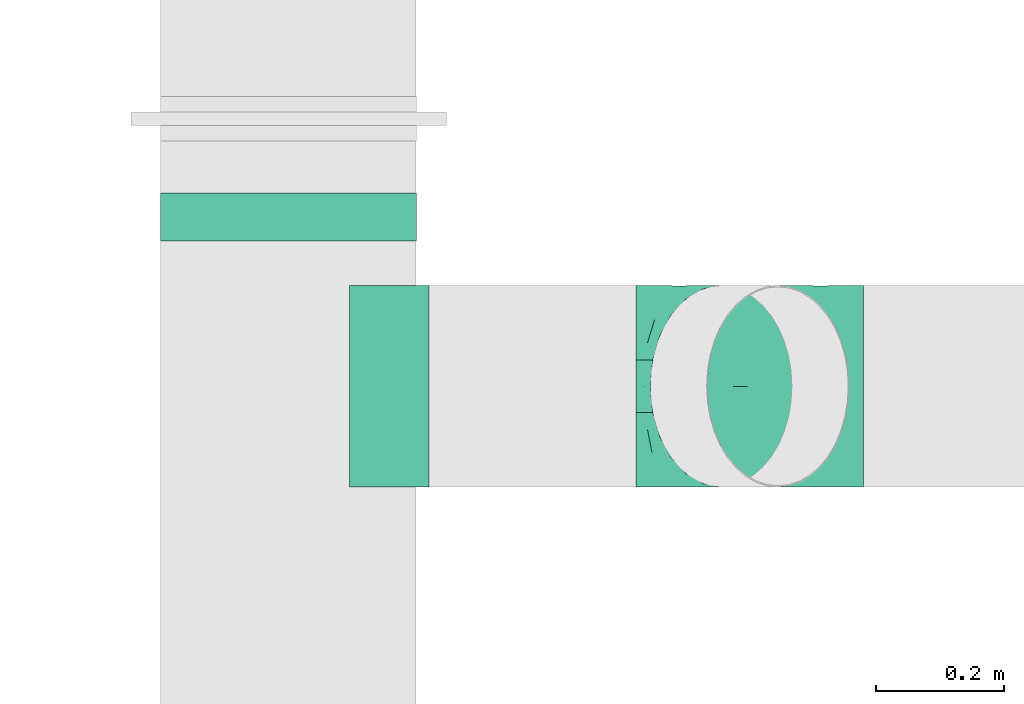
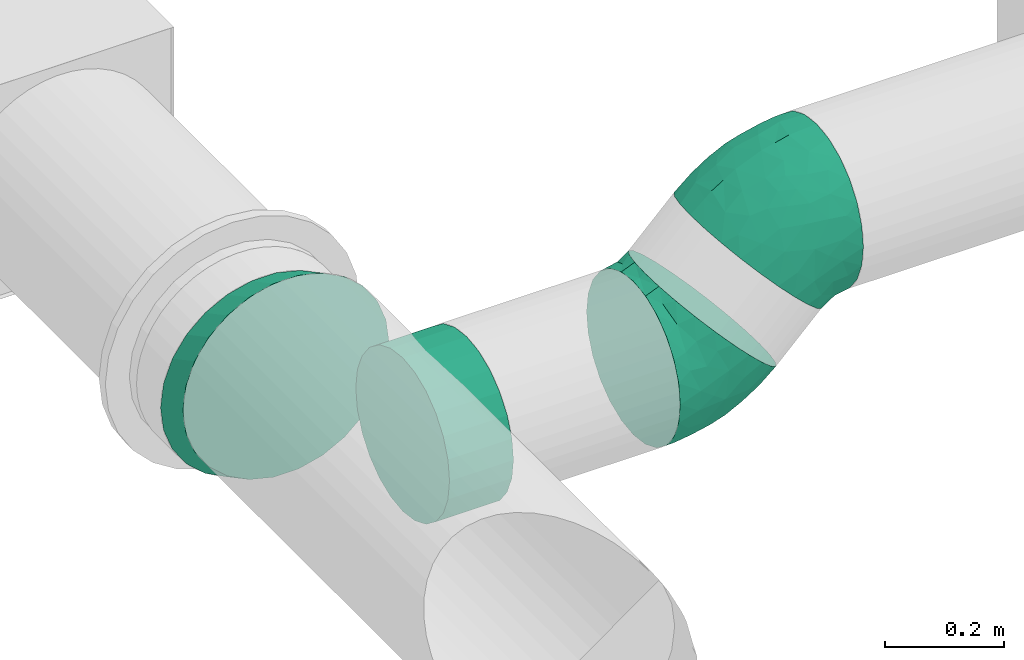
# One storey, part 9 of 16: 4 flow fittings.
"""IFC2X3 building model written with IfcOpenShell, lengths in millimetres."""

from ifc_helpers import new_model, entity, si_unit, converted_unit, derived_unit, direction, frame, origin_with_axes, place, context, subcontext, project, spatial, open_shell, surface_model, source, transform, mapped, type_object, element, save


model = new_model("IFC2X3")

# Units and contexts
model_context = context("Model", 3, precision=0.01, world=frame((0.0, 4.29681676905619e-09, 0.0)), true_north=direction((4.01073788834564e-13, 1.0)))
plan_context = context("Plan", 3, precision=0.01, world=frame((0.0, 4.29681676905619e-09, 0.0)), true_north=direction((4.01073788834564e-13, 1.0)))
body_context = subcontext(model_context, "Body", "Model", "MODEL_VIEW")
ifc_project = project(units=[converted_unit("PLANEANGLEUNIT", "DEGREE", entity("IfcPositiveLengthMeasure", 0.0174532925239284), si_unit("PLANEANGLEUNIT", "RADIAN"), dimensions=[0, 0, 0, 0, 0, 0, 0]), si_unit("AREAUNIT", "SQUARE_METRE"), si_unit("LENGTHUNIT", "METRE", prefix="MILLI"), si_unit("MASSUNIT", "GRAM", prefix="KILO"), si_unit("POWERUNIT", "WATT"), si_unit("PRESSUREUNIT", "PASCAL"), si_unit("FORCEUNIT", "NEWTON", prefix="KILO"), si_unit("ELECTRICVOLTAGEUNIT", "VOLT"), si_unit("ELECTRICCURRENTUNIT", "AMPERE"), si_unit("THERMODYNAMICTEMPERATUREUNIT", "DEGREE_CELSIUS"), si_unit("TIMEUNIT", "SECOND"), si_unit("VOLUMEUNIT", "CUBIC_METRE"), derived_unit("LINEARVELOCITYUNIT", [(si_unit("LENGTHUNIT", "METRE"), 1), (si_unit("TIMEUNIT", "SECOND"), -1)]), derived_unit("VOLUMETRICFLOWRATEUNIT", [(si_unit("VOLUMEUNIT", "CUBIC_METRE"), 1), (si_unit("TIMEUNIT", "SECOND"), -1)]), derived_unit("THERMALTRANSMITTANCEUNIT", [(si_unit("POWERUNIT", "WATT"), 1), (si_unit("THERMODYNAMICTEMPERATUREUNIT", "KELVIN"), -1), (si_unit("AREAUNIT", "SQUARE_METRE"), -1)]), derived_unit("SOUNDPRESSUREUNIT", [(si_unit("PRESSUREUNIT", "PASCAL"), 1)])], contexts=[model_context, plan_context])

# Site, building, storey
site_placement = place(None, frame((0.0, -4.29681676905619e-09, 0.0), z_axis=(0.0, 0.0, 1.0), x_axis=(1.0, 0.0, 0.0)))
site = spatial("IfcSite", under=ifc_project, at=site_placement, Name="ENGM", CompositionType="ELEMENT")
building_placement = place(site_placement, frame((0.0, 4.29681676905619e-09, 0.0), z_axis=(0.0, 0.0, 1.0), x_axis=(1.0, 0.0, 0.0)))
building = spatial("IfcBuilding", under=site, at=building_placement, Name="TH", CompositionType="ELEMENT")
storey_placement = place(building_placement, frame((0.0, 0.0, 210200.0), z_axis=(0.0, 0.0, 1.0), x_axis=(1.0, 0.0, 0.0)))
storey = spatial("IfcBuildingStorey", under=building, at=storey_placement, Name="Nivå F - 0,7 m", CompositionType="ELEMENT", Elevation=210200.0)

# Flow fittings
duct_fitting_type_1 = type_object("IfcDuctFittingType", Name="magicirc_elbow_short_001", PredefinedType="BEND")
shared_shape_1 = source(origin_with_axes(), body_context, "Body", "SurfaceModel", [
    surface_model("IfcShellBasedSurfaceModel", [(-78.28636, 78.75, -136.39901), (-78.28636, 40.764, -152.13332), (-78.28636, 0.0, -157.5), (-78.28636, 111.36932, -111.36932), (-78.28636, 152.13332, -40.764), (-78.28636, 136.39901, -78.75), (-78.28636, -152.13332, 40.764), (-78.28636, -152.13332, -40.764), (-78.28636, -78.75, -136.39901), (-78.28636, -111.36932, -111.36932), (-78.28636, -40.764, -152.13332), (-78.28636, -136.39901, -78.75), (-78.28636, -157.5, 0.0), (-78.28636, 111.36932, 111.36932), (-78.28636, 152.13332, 40.764), (-78.28636, 136.39901, 78.75), (-78.28636, 78.75, 136.39901), (-78.28636, -111.36932, 111.36932), (-78.28636, 40.764, 152.13332), (-78.28636, -136.39901, 78.75), (-78.28636, -78.75, 136.39901), (-78.28636, -40.764, 152.13332), (-78.28636, 0.0, 157.5), (-78.28636, 157.5, 0.0), (55.35682, 55.35682, -157.5), (26.53232, 84.18132, -152.13332), (-0.32784, 111.04148, -136.39901), (-23.39318, 134.10682, -111.36932), (-41.09184, 151.80548, -78.75), (-52.21768, 162.93132, -40.764), (162.93132, -52.21768, -40.764), (162.93132, -52.21768, 40.764), (84.18132, 26.53232, -152.13332), (134.10682, -23.39318, -111.36932), (111.04148, -0.32784, -136.39901), (151.80548, -41.09184, -78.75), (166.72614, -56.0125, 0.0), (-52.21768, 162.93132, 40.764), (-56.0125, 166.72614, 0.0), (-23.39318, 134.10682, 111.36932), (-41.09184, 151.80548, 78.75), (-0.32784, 111.04148, 136.39901), (26.53232, 84.18132, 152.13332), (134.10682, -23.39318, 111.36932), (151.80548, -41.09184, 78.75), (84.18132, 26.53232, 152.13332), (111.04148, -0.32784, 136.39901), (55.35682, 55.35682, 157.5), (-49.11236, -127.77996, 90.18947), (-34.85316, -146.52532, 50.0834), (-12.68336, -127.31236, 82.69537), (-41.78809, -154.62752, 0.0), (-24.08182, -153.23402, 0.0), (-35.84726, -100.69147, 118.47032), (-54.8087, -64.47551, 143.2064), (2.08675, -93.80638, 117.38857), (38.82999, -93.74389, 105.39421), (21.40052, -66.51383, 132.41994), (91.43168, -106.02, 43.56765), (98.99192, -81.05494, 82.69537), (69.23638, -91.45247, 91.93202), (-22.27624, -66.68051, 139.69479), (-40.54124, -26.86021, 154.59013), (12.03369, -24.13414, 151.66258), (-12.39711, -4.98926, 156.69805), (50.80174, -122.64626, 52.97543), (43.8352, -111.36889, 80.71495), (21.36787, -126.94854, 67.52195), (-53.26793, 123.13099, 103.70429), (-1.25362, 77.17281, 148.24007), (16.83006, 36.67886, 157.21802), (-53.68298, 55.45586, 148.24007), (-37.83654, 14.03521, 157.21802), (-22.9077, 55.30406, 151.14488), (-54.06528, 85.12747, 134.26178), (-10.63601, 25.67757, 157.02514), (-60.39574, 145.80821, 67.61152), (-66.23184, 159.8978, 0.0), (53.90469, -130.13742, 0.0), (79.02135, -119.73376, 0.0), (14.41152, -112.90869, 93.39778), (47.66001, 9.67393, 154.59013), (128.25395, -78.96415, 50.0834), (64.35527, -29.91821, 139.93064), (125.08176, -55.62639, 90.18947), (96.9038, -45.46685, 118.55395), (62.53535, -65.01693, 120.48315), (138.88682, -79.78952, 0.0), (102.20128, -105.52908, 0.0), (2.3531, -146.88755, 0.0), (10.3155, -139.61943, 43.56764), (-32.27846, 97.70482, 131.44465), (28.78803, -140.54109, 0.0), (125.38123, -91.32439, 0.0), (50.80174, -122.64626, -52.97543), (16.83006, 36.67886, -157.21802), (-37.83654, 14.03521, -157.21802), (-24.35067, -66.66142, -139.93064), (-49.40064, 124.73288, -103.70429), (-40.54124, -26.86021, -154.59013), (8.55629, -25.57451, -151.66258), (-53.68298, 55.45586, -148.24007), (-46.26342, 91.91206, -131.44465), (-22.9077, 55.30406, -151.14488), (-34.85316, -146.52532, -50.0834), (10.3155, -139.61943, -43.56764), (15.70915, -113.62418, -91.93202), (-36.37142, -100.67125, -118.55395), (1.75473, -90.19309, -120.48315), (47.66001, 9.67393, -154.59013), (-60.39574, 145.80821, -67.61152), (-49.11236, -127.77996, -90.18947), (125.08176, -55.62639, -90.18947), (96.54747, -45.85178, -118.47032), (-12.68336, -127.31236, -82.69537), (128.25395, -78.96415, -50.0834), (91.43168, -106.02, -43.56765), (98.99192, -81.05494, -82.69537), (31.89991, -62.16483, -132.41995), (38.82999, -93.74389, -105.39421), (69.64802, -90.02898, -93.39779), (64.85556, -67.80669, -117.38857), (-21.96428, 98.42412, -134.26178), (-1.25362, 77.17281, -148.24007), (84.34667, -6.83547, -143.2064), (62.90192, -31.39857, -139.69479), (47.75354, -109.74586, -80.71495), (74.65681, -104.87553, -67.52196), (12.294, 5.23814, -156.69805), (-10.63601, 25.67757, -157.02514)], [open_shell([[[0, 1, 2]], [[3, 0, 2]], [[4, 5, 3]], [[6, 3, 2]], [[6, 2, 7]], [[8, 9, 10]], [[7, 10, 9]], [[11, 7, 9]], [[7, 2, 10]], [[12, 6, 7]], [[3, 6, 4]], [[13, 14, 4]], [[15, 14, 13]], [[16, 13, 6]], [[4, 6, 13]], [[17, 18, 16]], [[19, 17, 6]], [[17, 16, 6]], [[20, 21, 17]], [[22, 17, 21]], [[17, 22, 18]], [[23, 4, 14]], [[24, 25, 26]], [[24, 26, 27]], [[27, 28, 29]], [[24, 27, 30]], [[31, 30, 27]], [[32, 33, 34]], [[33, 32, 30]], [[33, 30, 35]], [[32, 24, 30]], [[30, 31, 36]], [[31, 27, 29]], [[37, 31, 38]], [[39, 37, 40]], [[31, 39, 41]], [[37, 39, 31]], [[41, 42, 43]], [[31, 43, 44]], [[31, 41, 43]], [[43, 45, 46]], [[45, 43, 47]], [[42, 47, 43]], [[38, 31, 29]], [[48, 49, 50]], [[51, 52, 49]], [[49, 6, 51]], [[53, 54, 20]], [[55, 56, 57]], [[58, 59, 60]], [[20, 17, 53]], [[54, 53, 61]], [[62, 63, 64]], [[65, 66, 67]], [[48, 53, 17]], [[68, 39, 40]], [[69, 70, 42]], [[54, 21, 20]], [[17, 19, 48]], [[16, 18, 71]], [[71, 72, 73]], [[18, 22, 72]], [[60, 56, 66]], [[68, 13, 74]], [[64, 70, 75]], [[14, 15, 76]], [[74, 16, 71]], [[53, 55, 61]], [[23, 14, 77]], [[19, 6, 49]], [[65, 78, 79]], [[80, 55, 53]], [[70, 81, 47]], [[22, 21, 62]], [[42, 41, 69]], [[45, 47, 81]], [[44, 82, 31]], [[45, 83, 46]], [[80, 56, 55]], [[44, 84, 82]], [[60, 85, 86]], [[83, 85, 46]], [[75, 70, 73]], [[82, 87, 31]], [[81, 63, 83]], [[82, 58, 88]], [[74, 13, 16]], [[37, 77, 14]], [[58, 82, 59]], [[38, 77, 37]], [[49, 89, 90]], [[76, 37, 14]], [[43, 84, 44]], [[73, 69, 91]], [[49, 90, 50]], [[13, 68, 15]], [[22, 62, 72]], [[41, 39, 91]], [[47, 42, 70]], [[57, 56, 86]], [[84, 85, 59]], [[85, 43, 46]], [[39, 68, 91]], [[86, 85, 83]], [[76, 68, 40]], [[54, 62, 21]], [[63, 62, 61]], [[63, 81, 70]], [[83, 45, 81]], [[65, 92, 78]], [[88, 93, 82]], [[65, 90, 92]], [[68, 76, 15]], [[40, 37, 76]], [[57, 83, 63]], [[86, 56, 60]], [[83, 57, 86]], [[63, 61, 57]], [[61, 55, 57]], [[80, 53, 50]], [[67, 50, 90]], [[66, 56, 80]], [[67, 66, 80]], [[65, 58, 60]], [[60, 66, 65]], [[60, 59, 85]], [[50, 67, 80]], [[65, 67, 90]], [[72, 71, 18]], [[74, 73, 91]], [[73, 74, 71]], [[74, 91, 68]], [[91, 69, 41]], [[70, 69, 73]], [[49, 48, 19]], [[53, 48, 50]], [[85, 84, 43]], [[82, 84, 59]], [[6, 12, 51]], [[87, 82, 93]], [[87, 36, 31]], [[62, 54, 61]], [[73, 72, 75]], [[64, 75, 72]], [[62, 64, 72]], [[70, 64, 63]], [[65, 79, 58]], [[58, 79, 88]], [[89, 49, 52]], [[89, 92, 90]], [[94, 78, 92]], [[25, 24, 95]], [[2, 1, 96]], [[97, 8, 10]], [[98, 28, 27]], [[99, 100, 97]], [[101, 102, 103]], [[104, 105, 89]], [[0, 3, 102]], [[106, 107, 108]], [[24, 109, 95]], [[110, 4, 29]], [[104, 11, 111]], [[24, 32, 109]], [[104, 51, 7]], [[112, 113, 33]], [[107, 8, 97]], [[105, 114, 106]], [[96, 99, 2]], [[115, 116, 117]], [[30, 36, 87]], [[104, 7, 11]], [[10, 2, 99]], [[9, 111, 11]], [[118, 119, 108]], [[115, 30, 87]], [[4, 23, 77]], [[3, 98, 102]], [[77, 38, 29]], [[120, 119, 121]], [[5, 4, 110]], [[122, 27, 26]], [[115, 88, 116]], [[98, 27, 122]], [[1, 0, 101]], [[35, 30, 115]], [[95, 103, 123]], [[112, 33, 35]], [[1, 101, 96]], [[123, 122, 26]], [[34, 33, 113]], [[32, 34, 124]], [[125, 124, 113]], [[26, 25, 123]], [[3, 5, 98]], [[126, 127, 94]], [[8, 107, 9]], [[100, 128, 109]], [[117, 112, 115]], [[113, 121, 125]], [[115, 87, 93]], [[105, 104, 114]], [[95, 129, 103]], [[121, 119, 118]], [[106, 119, 126]], [[128, 96, 129]], [[108, 107, 97]], [[77, 29, 4]], [[111, 107, 114]], [[120, 121, 113]], [[110, 98, 5]], [[124, 109, 32]], [[100, 109, 125]], [[100, 99, 96]], [[97, 10, 99]], [[94, 79, 78]], [[89, 52, 104]], [[94, 116, 79]], [[29, 28, 110]], [[98, 110, 28]], [[118, 97, 100]], [[108, 119, 106]], [[97, 118, 108]], [[100, 125, 118]], [[125, 121, 118]], [[120, 113, 117]], [[127, 117, 116]], [[126, 119, 120]], [[127, 126, 120]], [[94, 105, 106]], [[106, 126, 94]], [[106, 114, 107]], [[117, 127, 120]], [[94, 127, 116]], [[102, 101, 0]], [[96, 101, 103]], [[95, 123, 25]], [[122, 103, 102]], [[103, 122, 123]], [[122, 102, 98]], [[115, 112, 35]], [[113, 112, 117]], [[107, 111, 9]], [[104, 111, 114]], [[51, 104, 52]], [[51, 12, 7]], [[113, 124, 34]], [[109, 124, 125]], [[128, 129, 95]], [[96, 103, 129]], [[109, 128, 95]], [[96, 128, 100]], [[94, 92, 105]], [[105, 92, 89]], [[88, 115, 93]], [[88, 79, 116]]])]),
])
flow_fitting_1_placement = place(storey_placement, frame((897376.49216, 482676.69257, 2861.60000000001), z_axis=(0.0, -1.0, 0.0), x_axis=(-1.0, 0.0, 0.0)))
element("IfcFlowFitting", 1, at=flow_fitting_1_placement, inside=storey, type_object=duct_fitting_type_1, Name="magicirc_elbow_short_001", context=body_context, shape_type="MappedRepresentation", body=[
    mapped(shared_shape_1, transform((0.0, 0.0, 0.0), scale=1.0)),
])
shared_shape_2 = source(origin_with_axes(), body_context, "Body", "SurfaceModel", [
    surface_model("IfcShellBasedSurfaceModel", [(-78.2963, 78.75, -136.39901), (-78.2963, 40.764, -152.13332), (-78.2963, 0.0, -157.5), (-78.2963, 111.36932, -111.36932), (-78.2963, 152.13332, -40.764), (-78.2963, 136.39901, -78.75), (-78.2963, -152.13332, 40.764), (-78.2963, -152.13332, -40.764), (-78.2963, -78.75, -136.39901), (-78.2963, -111.36932, -111.36932), (-78.2963, -40.764, -152.13332), (-78.2963, -136.39901, -78.75), (-78.2963, -157.5, 0.0), (-78.2963, 111.36932, 111.36932), (-78.2963, 152.13332, 40.764), (-78.2963, 136.39901, 78.75), (-78.2963, 78.75, 136.39901), (-78.2963, -111.36932, 111.36932), (-78.2963, 40.764, 152.13332), (-78.2963, -136.39901, 78.75), (-78.2963, -78.75, 136.39901), (-78.2963, -40.764, 152.13332), (-78.2963, 0.0, 157.5), (-78.2963, 157.5, 0.0), (55.35888, 55.36882, -157.5), (26.53179, 84.19073, -152.13332), (-0.33078, 111.04847, -136.39901), (162.94303, -52.19603, -40.764), (-23.39819, 134.11174, -111.36932), (-41.09844, 151.80882, -78.75), (-52.22528, 162.93366, -40.764), (-56.02044, 166.72814, 0.0), (84.18597, 26.5469, -152.13332), (134.11594, -23.37411, -111.36932), (111.04854, -0.31084, -136.39901), (151.8162, -41.07118, -78.75), (-23.39819, 134.11174, 111.36932), (166.73819, -55.99051, 0.0), (-52.22528, 162.93366, 40.764), (-41.09844, 151.80882, 78.75), (-0.33078, 111.04847, 136.39901), (162.94303, -52.19603, 40.764), (26.53179, 84.19073, 152.13332), (134.11594, -23.37411, 111.36932), (151.8162, -41.07118, 78.75), (84.18597, 26.5469, 152.13332), (111.04854, -0.31084, 136.39901), (55.35888, 55.36882, 157.5), (-49.11849, -127.78055, 90.18814), (-34.86064, -146.52556, 50.08178), (-12.6865, -127.31271, 82.69256), (-41.79807, -154.62719, 0.0), (-24.08562, -153.23303, 0.0), (-35.8542, -100.69235, 118.46918), (-54.81304, -64.47676, 143.20559), (2.08579, -93.80525, 117.38735), (38.83443, -93.74271, 105.38932), (21.40564, -66.50908, 132.41927), (91.44131, -106.01228, 43.55701), (99.00167, -81.04409, 82.69256), (69.24263, -91.4516, 91.9226), (-22.27634, -66.68179, 139.69304), (-40.5502, -26.86123, 154.58989), (12.04096, -24.13029, 151.66169), (-12.40355, -4.99717, 156.69718), (50.80635, -122.64181, 52.97133), (43.83452, -111.36816, 80.71025), (21.36626, -126.94925, 67.51523), (-53.2761, 123.13047, 103.70556), (-1.25552, 77.17613, 148.24072), (16.83249, 36.6843, 157.21815), (-53.68897, 55.45473, 148.24072), (-37.84336, 14.03394, 157.21815), (-22.91021, 55.3031, 151.14597), (-54.07282, 85.13043, 134.26035), (-10.63509, 25.67208, 157.02586), (-60.40344, 145.80829, 67.61317), (-66.24047, 159.89834, 0.0), (53.90898, -130.13126, 0.0), (79.02803, -119.72529, 0.0), (14.41201, -112.90844, 93.39395), (47.6662, 9.68382, 154.58989), (128.2665, -78.94751, 50.08178), (64.36434, -29.90774, 139.92981), (125.0915, -55.61124, 90.18814), (96.91481, -45.45235, 118.55314), (62.54431, -65.01178, 120.47923), (138.9008, -79.76978, 0.0), (102.20973, -105.51752, 0.0), (2.35215, -146.88514, 0.0), (10.31576, -139.61985, 43.55701), (-32.28136, 97.70655, 131.44572), (28.78992, -140.53723, 0.0), (125.39142, -91.30976, 0.0), (50.80635, -122.64181, -52.97133), (16.83249, 36.6843, -157.21815), (-37.84336, 14.03394, -157.21815), (-24.35851, -66.66262, -139.9298), (-49.4057, 124.73385, -103.70556), (-40.5502, -26.86123, -154.58989), (8.55073, -25.57617, -151.66169), (-53.68897, 55.45473, -148.24072), (-46.27084, 91.91119, -131.44572), (-22.91021, 55.3031, -151.14597), (-34.86064, -146.52556, -50.08178), (10.31576, -139.61985, -43.55701), (15.71432, -113.62658, -91.9226), (-36.38041, -100.67204, -118.55314), (1.75285, -90.19563, -120.47922), (47.6662, 9.68382, -154.58989), (-60.40344, 145.80829, -67.61317), (-49.11849, -127.78055, -90.18814), (125.0915, -55.61124, -90.18814), (96.55711, -45.83883, -118.46918), (-12.6865, -127.31271, -82.69256), (128.2665, -78.94751, -50.08178), (91.44131, -106.01228, -43.55701), (99.00167, -81.04409, -82.69256), (31.89851, -62.16223, -132.41927), (38.83443, -93.74271, -105.38932), (69.65558, -90.0229, -93.39395), (64.86153, -67.79938, -117.38735), (-21.96989, 98.42958, -134.26035), (-1.25552, 77.17613, -148.24072), (84.35124, -6.82572, -143.20559), (62.90571, -31.39375, -139.69304), (47.76335, -109.74058, -80.71025), (74.66787, -104.86819, -67.51524), (12.30368, 5.23821, -156.69718), (-10.63509, 25.67208, -157.02586)], [open_shell([[[0, 1, 2]], [[3, 0, 2]], [[4, 5, 3]], [[6, 3, 2]], [[6, 2, 7]], [[8, 9, 10]], [[7, 10, 9]], [[11, 7, 9]], [[7, 2, 10]], [[12, 6, 7]], [[3, 6, 4]], [[13, 14, 4]], [[15, 14, 13]], [[16, 13, 6]], [[4, 6, 13]], [[17, 18, 16]], [[19, 17, 6]], [[17, 16, 6]], [[20, 21, 17]], [[22, 17, 21]], [[17, 22, 18]], [[23, 4, 14]], [[24, 25, 26]], [[27, 24, 26]], [[28, 29, 30]], [[31, 27, 26]], [[28, 31, 26]], [[32, 33, 34]], [[33, 32, 27]], [[33, 27, 35]], [[32, 24, 27]], [[27, 36, 37]], [[31, 28, 30]], [[31, 38, 39]], [[31, 39, 36]], [[37, 40, 41]], [[40, 37, 36]], [[42, 43, 40]], [[41, 43, 44]], [[41, 40, 43]], [[43, 45, 46]], [[45, 43, 47]], [[42, 47, 43]], [[36, 27, 31]], [[48, 49, 50]], [[51, 52, 49]], [[49, 6, 51]], [[53, 54, 20]], [[55, 56, 57]], [[58, 59, 60]], [[20, 17, 53]], [[54, 53, 61]], [[62, 63, 64]], [[65, 66, 67]], [[48, 53, 17]], [[68, 36, 39]], [[69, 70, 42]], [[54, 21, 20]], [[17, 19, 48]], [[16, 18, 71]], [[71, 72, 73]], [[18, 22, 72]], [[60, 56, 66]], [[68, 13, 74]], [[64, 70, 75]], [[14, 15, 76]], [[74, 16, 71]], [[53, 55, 61]], [[23, 14, 77]], [[19, 6, 49]], [[65, 78, 79]], [[80, 55, 53]], [[70, 81, 47]], [[22, 21, 62]], [[42, 40, 69]], [[45, 47, 81]], [[44, 82, 41]], [[45, 83, 46]], [[80, 56, 55]], [[44, 84, 82]], [[60, 85, 86]], [[83, 85, 46]], [[75, 70, 73]], [[82, 87, 41]], [[81, 63, 83]], [[82, 58, 88]], [[74, 13, 16]], [[38, 77, 14]], [[58, 82, 59]], [[31, 77, 38]], [[49, 89, 90]], [[76, 38, 14]], [[43, 84, 44]], [[73, 69, 91]], [[49, 90, 50]], [[13, 68, 15]], [[22, 62, 72]], [[40, 36, 91]], [[47, 42, 70]], [[57, 56, 86]], [[84, 85, 59]], [[85, 43, 46]], [[36, 68, 91]], [[86, 85, 83]], [[76, 68, 39]], [[54, 62, 21]], [[63, 62, 61]], [[63, 81, 70]], [[83, 45, 81]], [[65, 92, 78]], [[88, 93, 82]], [[65, 90, 92]], [[68, 76, 15]], [[39, 38, 76]], [[57, 83, 63]], [[86, 56, 60]], [[83, 57, 86]], [[63, 61, 57]], [[61, 55, 57]], [[80, 53, 50]], [[67, 50, 90]], [[66, 56, 80]], [[67, 66, 80]], [[65, 58, 60]], [[60, 66, 65]], [[60, 59, 85]], [[50, 67, 80]], [[65, 67, 90]], [[72, 71, 18]], [[74, 73, 91]], [[73, 74, 71]], [[74, 91, 68]], [[91, 69, 40]], [[70, 69, 73]], [[49, 48, 19]], [[53, 48, 50]], [[85, 84, 43]], [[82, 84, 59]], [[6, 12, 51]], [[87, 82, 93]], [[87, 37, 41]], [[62, 54, 61]], [[73, 72, 75]], [[64, 75, 72]], [[62, 64, 72]], [[70, 64, 63]], [[65, 79, 58]], [[58, 79, 88]], [[89, 49, 52]], [[89, 92, 90]], [[94, 78, 92]], [[25, 24, 95]], [[2, 1, 96]], [[97, 8, 10]], [[98, 29, 28]], [[99, 100, 97]], [[101, 102, 103]], [[104, 105, 89]], [[0, 3, 102]], [[106, 107, 108]], [[24, 109, 95]], [[110, 4, 30]], [[104, 11, 111]], [[24, 32, 109]], [[104, 51, 7]], [[112, 113, 33]], [[107, 8, 97]], [[105, 114, 106]], [[96, 99, 2]], [[115, 116, 117]], [[27, 37, 87]], [[104, 7, 11]], [[10, 2, 99]], [[9, 111, 11]], [[118, 119, 108]], [[115, 27, 87]], [[4, 23, 77]], [[3, 98, 102]], [[77, 31, 30]], [[120, 119, 121]], [[5, 4, 110]], [[122, 28, 26]], [[115, 88, 116]], [[98, 28, 122]], [[1, 0, 101]], [[35, 27, 115]], [[95, 103, 123]], [[112, 33, 35]], [[1, 101, 96]], [[123, 122, 26]], [[34, 33, 113]], [[32, 34, 124]], [[125, 124, 113]], [[26, 25, 123]], [[3, 5, 98]], [[126, 127, 94]], [[8, 107, 9]], [[100, 128, 109]], [[117, 112, 115]], [[113, 121, 125]], [[115, 87, 93]], [[105, 104, 114]], [[95, 129, 103]], [[121, 119, 118]], [[106, 119, 126]], [[128, 96, 129]], [[108, 107, 97]], [[77, 30, 4]], [[111, 107, 114]], [[120, 121, 113]], [[110, 98, 5]], [[124, 109, 32]], [[100, 109, 125]], [[100, 99, 96]], [[97, 10, 99]], [[94, 79, 78]], [[89, 52, 104]], [[94, 116, 79]], [[30, 29, 110]], [[98, 110, 29]], [[118, 97, 100]], [[108, 119, 106]], [[97, 118, 108]], [[100, 125, 118]], [[125, 121, 118]], [[120, 113, 117]], [[127, 117, 116]], [[126, 119, 120]], [[127, 126, 120]], [[94, 105, 106]], [[106, 126, 94]], [[106, 114, 107]], [[117, 127, 120]], [[94, 127, 116]], [[102, 101, 0]], [[96, 101, 103]], [[95, 123, 25]], [[122, 103, 102]], [[103, 122, 123]], [[122, 102, 98]], [[115, 112, 35]], [[113, 112, 117]], [[107, 111, 9]], [[104, 111, 114]], [[51, 104, 52]], [[51, 12, 7]], [[113, 124, 34]], [[109, 124, 125]], [[128, 129, 95]], [[96, 103, 129]], [[109, 128, 95]], [[96, 128, 100]], [[94, 92, 105]], [[105, 92, 89]], [[88, 115, 93]], [[88, 79, 116]]])]),
])
flow_fitting_2_placement = place(storey_placement, frame((897177.69216, 482676.69257, 2662.79999999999), z_axis=(0.0, 1.0, 0.0), x_axis=(-0.707106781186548, 0.0, -0.707106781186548)))
element("IfcFlowFitting", 2, at=flow_fitting_2_placement, inside=storey, type_object=duct_fitting_type_1, Name="magicirc_elbow_short_001", context=body_context, shape_type="MappedRepresentation", body=[
    mapped(shared_shape_2, transform((0.0, 0.0, 0.0), scale=1.0)),
])
duct_fitting_type_2 = type_object("IfcDuctFittingType", Name="magicirc_tapoutlet_001", PredefinedType="CONNECTOR")
shared_shape_3 = source(origin_with_axes(), body_context, "Body", "SurfaceModel", [
    surface_model("IfcShellBasedSurfaceModel", [(20.0, 40.764, -152.13332), (20.0, 157.5, 0.0), (20.0, 0.0, -157.5), (20.0, 78.75, -136.39901), (20.0, 136.39901, -78.75), (20.0, 111.36932, -111.36932), (20.0, -111.36932, -111.36932), (20.0, -152.13332, 40.764), (20.0, -78.75, -136.39901), (20.0, -40.764, -152.13332), (20.0, -136.39901, -78.75), (20.0, -152.13332, -40.764), (20.0, -157.5, 0.0), (20.0, 152.13332, -40.764), (20.0, 152.13332, 40.764), (20.0, 111.36932, 111.36932), (20.0, 136.39901, 78.75), (20.0, 78.75, 136.39901), (20.0, 40.764, 152.13332), (20.0, -111.36932, 111.36932), (20.0, -136.39901, 78.75), (20.0, -78.75, 136.39901), (20.0, -40.764, 152.13332), (20.0, 0.0, 157.5), (0.0, 0.0, 157.5), (0.0, 40.764, 152.13332), (0.0, 78.75, 136.39901), (0.0, 111.36932, 111.36932), (0.0, 136.39901, 78.75), (0.0, 152.13332, 40.764), (0.0, 157.5, 0.0), (0.0, 152.13332, -40.764), (0.0, 136.39901, -78.75), (0.0, 111.36932, -111.36932), (0.0, 0.0, -157.5), (0.0, 78.75, -136.39901), (0.0, 40.764, -152.13332), (0.0, -40.764, -152.13332), (0.0, -78.75, -136.39901), (0.0, -111.36932, -111.36932), (0.0, -136.39901, -78.75), (0.0, -152.13332, -40.764), (0.0, -157.5, 0.0), (0.0, -152.13332, 40.764), (0.0, -136.39901, 78.75), (0.0, -111.36932, 111.36932), (0.0, -78.75, 136.39901), (0.0, -40.764, 152.13332), (-104.23049, 0.0, -157.5), (-104.23049, -40.764, -152.13332), (-104.23049, 40.764, -152.13332), (-104.23049, 152.13332, 40.764), (-104.23049, 78.75, -136.39901), (-104.23049, 111.36932, -111.36932), (-104.23049, 136.39901, -78.75), (-104.23049, -157.5, 0.0), (-104.23049, -152.13332, 40.764), (-104.23049, -111.36932, -111.36932), (-104.23049, -78.75, -136.39901), (-104.23049, -152.13332, -40.764), (-104.23049, -136.39901, -78.75), (-104.23049, 152.13332, -40.764), (-104.23049, 111.36932, 111.36932), (-104.23049, 136.39901, 78.75), (-104.23049, 40.764, 152.13332), (-104.23049, 78.75, 136.39901), (-104.23049, 0.0, 157.5), (-104.23049, -111.36932, 111.36932), (-104.23049, -136.39901, 78.75), (-104.23049, -40.764, 152.13332), (-104.23049, -78.75, 136.39901), (-104.23049, 157.5, 0.0)], [open_shell([[[0, 1, 2]], [[3, 1, 0]], [[4, 1, 5]], [[5, 1, 3]], [[6, 2, 7]], [[2, 6, 8]], [[8, 9, 2]], [[10, 7, 11]], [[7, 10, 6]], [[11, 7, 12]], [[13, 1, 4]], [[2, 14, 15]], [[15, 14, 16]], [[17, 18, 2]], [[2, 15, 17]], [[2, 18, 19]], [[20, 7, 2]], [[19, 20, 2]], [[18, 21, 19]], [[22, 21, 18]], [[18, 23, 22]], [[1, 14, 2]], [[24, 23, 18]], [[25, 18, 17]], [[24, 18, 25]], [[26, 15, 27]], [[26, 25, 17]], [[15, 26, 17]], [[28, 16, 14]], [[29, 14, 1]], [[27, 16, 28]], [[29, 28, 14]], [[30, 29, 1]], [[16, 27, 15]], [[30, 1, 13]], [[31, 13, 4]], [[30, 13, 31]], [[32, 5, 33]], [[32, 31, 4]], [[5, 32, 4]], [[0, 2, 34]], [[3, 0, 35]], [[35, 33, 3]], [[36, 35, 0]], [[0, 34, 36]], [[3, 33, 5]], [[34, 2, 9]], [[37, 9, 8]], [[34, 9, 37]], [[38, 6, 39]], [[38, 37, 8]], [[6, 38, 8]], [[40, 10, 11]], [[41, 11, 12]], [[39, 10, 40]], [[41, 40, 11]], [[42, 41, 12]], [[10, 39, 6]], [[42, 12, 7]], [[43, 7, 20]], [[42, 7, 43]], [[44, 19, 45]], [[44, 43, 20]], [[19, 44, 20]], [[46, 21, 22]], [[47, 22, 23]], [[45, 21, 46]], [[47, 46, 22]], [[24, 47, 23]], [[21, 45, 19]], [[6, 7, 10]], [[7, 11, 10]], [[7, 12, 11]], [[48, 49, 50]], [[50, 51, 52]], [[53, 51, 54]], [[52, 51, 53]], [[50, 55, 56]], [[57, 55, 58]], [[50, 49, 58]], [[59, 55, 60]], [[57, 60, 55]], [[58, 55, 50]], [[61, 54, 51]], [[51, 50, 62]], [[63, 51, 62]], [[50, 64, 65]], [[65, 62, 50]], [[66, 64, 50]], [[67, 66, 68]], [[50, 56, 68]], [[69, 66, 70]], [[67, 70, 66]], [[50, 68, 66]], [[71, 61, 51]], [[64, 24, 25]], [[65, 25, 26]], [[66, 24, 64]], [[64, 25, 65]], [[26, 62, 65]], [[26, 27, 62]], [[51, 28, 29]], [[71, 29, 30]], [[27, 63, 62]], [[27, 28, 63]], [[63, 28, 51]], [[29, 71, 51]], [[71, 30, 31]], [[61, 31, 32]], [[71, 31, 61]], [[33, 53, 54]], [[32, 54, 61]], [[54, 32, 33]], [[50, 35, 36]], [[48, 36, 34]], [[33, 52, 53]], [[33, 35, 52]], [[52, 35, 50]], [[36, 48, 50]], [[37, 38, 58]], [[34, 37, 49]], [[49, 48, 34]], [[58, 49, 37]], [[38, 57, 58]], [[38, 39, 57]], [[59, 40, 41]], [[55, 41, 42]], [[39, 60, 57]], [[39, 40, 60]], [[60, 40, 59]], [[41, 55, 59]], [[56, 42, 43]], [[68, 43, 44]], [[55, 42, 56]], [[56, 43, 68]], [[44, 67, 68]], [[44, 45, 67]], [[69, 46, 47]], [[66, 47, 24]], [[45, 70, 67]], [[45, 46, 70]], [[70, 46, 69]], [[47, 66, 69]], [[50, 62, 51]], [[64, 50, 66]]])]),
])
flow_fitting_3_placement = place(storey_placement, frame((896755.93171, 482676.69257, 2662.83786), z_axis=(-8.99999996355e-05, 0.0, -0.99999999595), x_axis=(0.99999999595, 0.0, -8.99999996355e-05)))
element("IfcFlowFitting", 3, at=flow_fitting_3_placement, inside=storey, type_object=duct_fitting_type_2, Name="magicirc_tapoutlet_001", context=body_context, shape_type="MappedRepresentation", body=[
    mapped(shared_shape_3, transform((0.0, 0.0, 0.0), scale=1.0)),
])
duct_fitting_type_3 = type_object("IfcDuctFittingType", Name="magicirc_reduction_001", PredefinedType="TRANSITION")
shared_shape_4 = source(origin_with_axes(), body_context, "Body", "SurfaceModel", [
    surface_model("IfcShellBasedSurfaceModel", [(0.0, -149.70215, 132.62454), (0.0, -113.61295, 164.59677), (0.0, -177.09121, 92.94464), (0.0, 24.10734, 198.54177), (0.0, 70.92098, 187.00325), (0.0, 113.61295, 164.59677), (0.0, -70.92098, 187.00325), (0.0, 177.09121, 92.94464), (0.0, 149.70215, 132.62454), (0.0, -24.10734, 198.54177), (0.0, -200.0, 0.0), (0.0, -194.18836, 47.86313), (0.0, 200.0, 0.0), (0.0, 194.18836, -47.86313), (0.0, 177.09121, -92.94464), (0.0, 149.70215, -132.62454), (0.0, 113.61295, -164.59677), (0.0, 70.92098, -187.00325), (0.0, -24.10734, -198.54177), (0.0, -113.61295, -164.59677), (0.0, -149.70215, -132.62454), (0.0, -70.92098, -187.00325), (0.0, 24.10734, -198.54177), (0.0, 194.18836, 47.86313), (0.0, -194.18836, -47.86313), (0.0, -177.09121, -92.94464), (75.0, -70.92098, 227.00324), (75.0, 194.18836, 87.86313), (75.0, -24.10734, 238.54178), (75.0, -149.70215, 172.62453), (75.0, -113.61295, 204.59678), (75.0, 149.70215, -92.62453), (75.0, -177.09121, 132.94464), (75.0, 70.92098, 227.00324), (75.0, 149.70215, 172.62453), (75.0, 113.61295, 204.59678), (75.0, 24.10734, 238.54178), (75.0, 177.09121, 132.94464), (75.0, 200.0, 40.0), (75.0, -194.18836, 87.86313), (75.0, -200.0, 40.0), (75.0, -194.18836, -7.86313), (75.0, -177.09121, -52.94463), (75.0, 70.92098, -147.00325), (75.0, -24.10734, -158.54178), (75.0, -149.70215, -92.62453), (75.0, -113.61295, -124.59677), (75.0, -70.92098, -147.00325), (75.0, 177.09121, -52.94463), (75.0, 194.18836, -7.86313), (75.0, 24.10734, -158.54178), (75.0, 113.61295, -124.59677)], [open_shell([[[0, 1, 2]], [[3, 4, 5]], [[6, 3, 5]], [[7, 5, 8]], [[5, 1, 6]], [[6, 9, 3]], [[10, 11, 2]], [[1, 10, 2]], [[12, 13, 14]], [[12, 14, 15]], [[15, 16, 17]], [[18, 19, 20]], [[21, 19, 18]], [[17, 22, 18]], [[7, 23, 5]], [[23, 12, 10]], [[24, 10, 25]], [[1, 5, 23]], [[10, 1, 23]], [[17, 10, 15]], [[10, 17, 25]], [[25, 18, 20]], [[17, 18, 25]], [[10, 12, 15]], [[26, 27, 28]], [[29, 26, 30]], [[31, 27, 26]], [[29, 31, 26]], [[31, 29, 32]], [[33, 34, 35]], [[34, 33, 36]], [[34, 36, 37]], [[36, 28, 37]], [[27, 37, 28]], [[27, 31, 38]], [[32, 39, 40]], [[40, 41, 42]], [[43, 40, 42]], [[44, 45, 46]], [[45, 44, 42]], [[47, 44, 46]], [[38, 48, 49]], [[31, 48, 38]], [[44, 50, 43]], [[51, 31, 43]], [[43, 31, 32]], [[42, 44, 43]], [[32, 40, 43]], [[24, 41, 10]], [[25, 42, 24]], [[46, 20, 19]], [[19, 21, 47]], [[25, 20, 45]], [[18, 44, 21]], [[24, 42, 41]], [[41, 40, 10]], [[47, 46, 19]], [[45, 20, 46]], [[45, 42, 25]], [[44, 47, 21]], [[18, 50, 44]], [[17, 43, 22]], [[16, 43, 17]], [[14, 13, 48]], [[31, 15, 14]], [[15, 51, 16]], [[49, 13, 12]], [[16, 51, 43]], [[43, 50, 22]], [[31, 51, 15]], [[14, 48, 31]], [[49, 48, 13]], [[12, 38, 49]], [[22, 50, 18]], [[23, 27, 12]], [[7, 37, 23]], [[35, 8, 5]], [[5, 4, 33]], [[7, 8, 34]], [[3, 36, 4]], [[23, 37, 27]], [[27, 38, 12]], [[33, 35, 5]], [[34, 8, 35]], [[34, 37, 7]], [[36, 33, 4]], [[3, 28, 36]], [[6, 26, 9]], [[1, 26, 6]], [[2, 11, 32]], [[29, 0, 2]], [[0, 30, 1]], [[39, 11, 10]], [[1, 30, 26]], [[26, 28, 9]], [[29, 30, 0]], [[2, 32, 29]], [[39, 32, 11]], [[10, 40, 39]], [[9, 28, 3]]])]),
])
flow_fitting_4_placement = place(storey_placement, frame((896556.49216, 482978.92473, 2637.79999999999), z_axis=(0.0, 0.0, 1.0), x_axis=(0.0, -1.0, 0.0)))
element("IfcFlowFitting", 4, at=flow_fitting_4_placement, inside=storey, type_object=duct_fitting_type_3, Name="magicirc_reduction_001", context=body_context, shape_type="MappedRepresentation", body=[
    mapped(shared_shape_4, transform((0.0, 0.0, 0.0), scale=1.0)),
])

save(model, "model.ifc")
